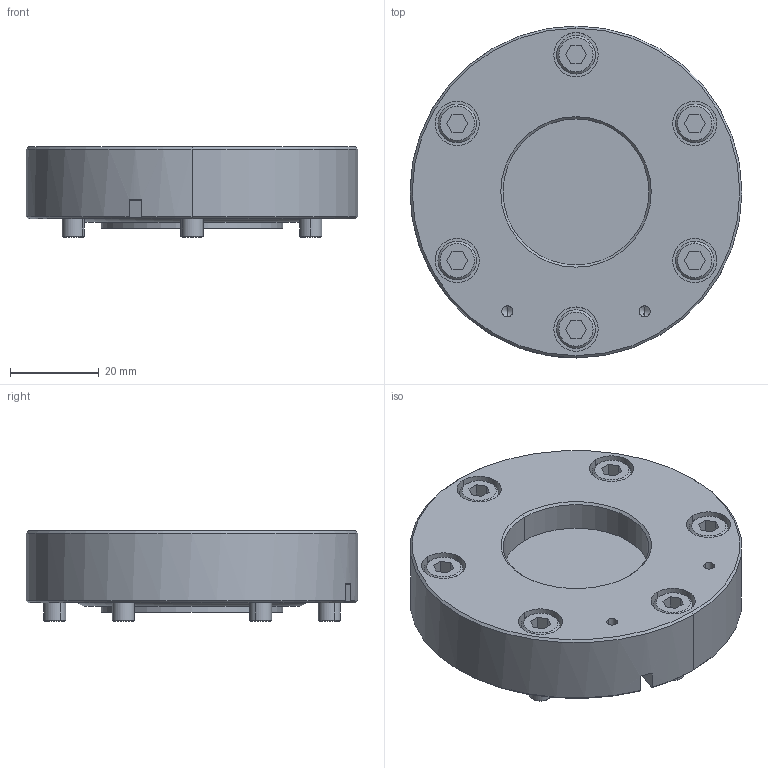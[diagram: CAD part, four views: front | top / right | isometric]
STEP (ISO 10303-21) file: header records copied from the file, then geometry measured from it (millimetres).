
FILE_DESCRIPTION (( 'STEP AP214' ), '1' );
FILE_NAME ('JK040-G-A-V-IR-200503.STEP', '2020-05-03T05:42:18', ( '' ), ( '' ), 'SwSTEP 2.0', 'SolidWorks 2018', '' );
FILE_SCHEMA (( 'AUTOMOTIVE_DESIGN' ));
Length unit declared in the file: millimetre
Products named in the file (6): A32-0515-000_ル遽; JK04004A; JK040-03A-IR; JK040-01B; JK04002A; JK040-G-A-V-IR-200503
Assembly tree (10 placements, depth 2):
  JK040-G-A-V-IR-200503
    JK040-01B
    JK040-03A-IR
    JK04004A
    JK04002A
    A32-0515-000_ル遽  x6
Bounding box: 75 x 75 x 20.4 mm (x, y, z)
Volume: 58681.1 mm3; surface area: 28823.1 mm2
Topology: 10 solids, 10 shells, 212 faces, 471 edges, 296 vertices
Faces by surface type: plane 79, cylinder 71, cone 42, torus 20
Entity records: 3888 total; most frequent: CARTESIAN_POINT 746, DIRECTION 674, ORIENTED_EDGE 554, AXIS2_PLACEMENT_3D 290, EDGE_CURVE 277, VERTEX_POINT 176, CIRCLE 155, EDGE_LOOP 151
